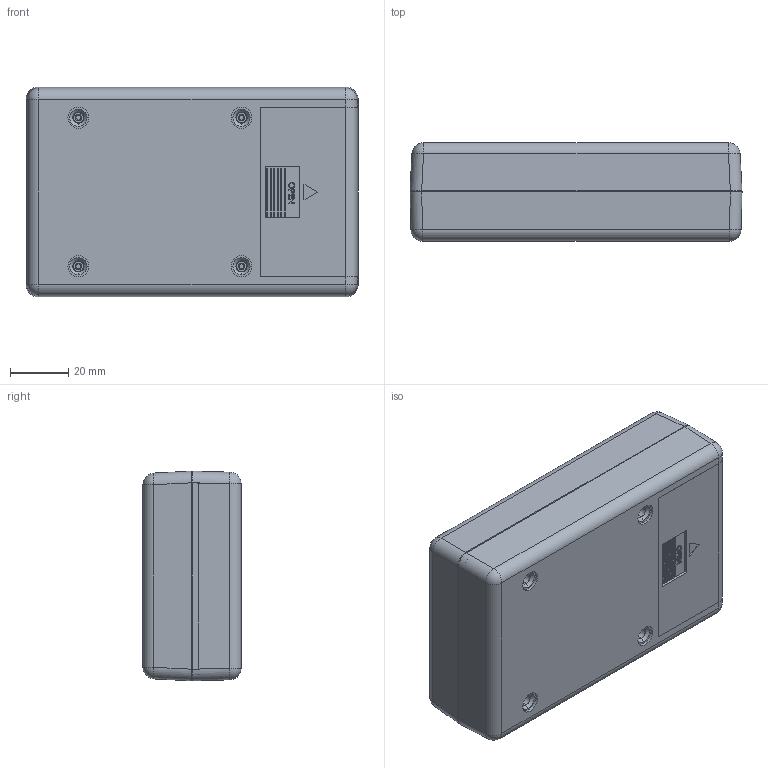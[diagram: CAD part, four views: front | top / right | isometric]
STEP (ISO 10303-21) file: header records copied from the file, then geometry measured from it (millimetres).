
FILE_DESCRIPTION (( 'STEP AP214' ), '1' );
FILE_NAME ('UCCS-132.STEP', '2020-05-17T23:49:40', ( 'Rudy' ), ( '' ), 'SwSTEP 2.0', 'SolidWorks 2014', '' );
FILE_SCHEMA (( 'AUTOMOTIVE_DESIGN' ));
Length unit declared in the file: inch
Products named in the file (4): UCCS 9V DOOR; UCCS-Recessed Top; UCCS 9V Bottom; UCCS-132
Assembly tree (3 placements, depth 2):
  UCCS-132
    UCCS 9V Bottom
    UCCS-Recessed Top
    UCCS 9V DOOR
Bounding box: 114 x 33.69 x 72 mm (x, y, z)
Volume: 80431.1 mm3; surface area: 70761.6 mm2
Topology: 3 solids, 3 shells, 754 faces, 1954 edges, 1246 vertices
Faces by surface type: plane 454, cylinder 182, cone 48, bspline 38, torus 20, sphere 12
Entity records: 24655 total; most frequent: CARTESIAN_POINT 6330, ORIENTED_EDGE 3884, DIRECTION 3599, EDGE_CURVE 1942, LINE 1365, VECTOR 1365, VERTEX_POINT 1246, AXIS2_PLACEMENT_3D 1117
